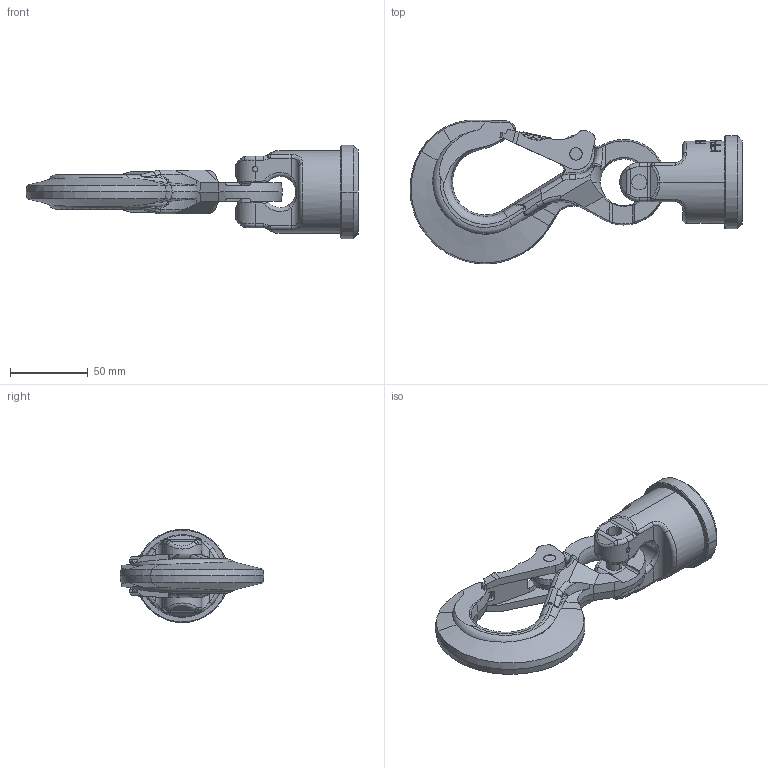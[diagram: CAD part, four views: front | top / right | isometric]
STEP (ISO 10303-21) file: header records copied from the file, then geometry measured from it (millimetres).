
FILE_DESCRIPTION((''),'2;1');
FILE_NAME('001-M31347-P-40_ASM','2018-04-27T',('Anja.Joas'),(''),'PRO/ENGINEER BY PARAMETRIC TECHNOLOGY CORPORATION, 2011490','PRO/ENGINEER BY PARAMETRIC TECHNOLOGY CORPORATION, 2011490','');
FILE_SCHEMA(('CONFIG_CONTROL_DESIGN'));
Length unit declared in the file: millimetre
Products named in the file (6): 001-M31347-P-20; 001-M31347-P-50; 001-M13022-001; 001-M31177-001; 001-M13022-002_ASM; 001-M31347-P-40_ASM
Assembly tree (5 placements, depth 3):
  001-M31347-P-40_ASM
    001-M31347-P-20
    001-M31347-P-50
    001-M13022-002_ASM
      001-M13022-001
      001-M31177-001
Bounding box: 213.3 x 92.48 x 60 mm (x, y, z)
Volume: 242198.4 mm3; surface area: 52354.5 mm2
Topology: 4 solids, 4 shells, 638 faces, 1712 edges, 1086 vertices
Faces by surface type: plane 357, cylinder 119, bspline 56, cone 40, torus 36, sphere 30
Entity records: 23361 total; most frequent: CARTESIAN_POINT 8298, ORIENTED_EDGE 3368, DIRECTION 2779, EDGE_CURVE 1684, VERTEX_POINT 1086, AXIS2_PLACEMENT_3D 1026, VECTOR 727, LINE 727
